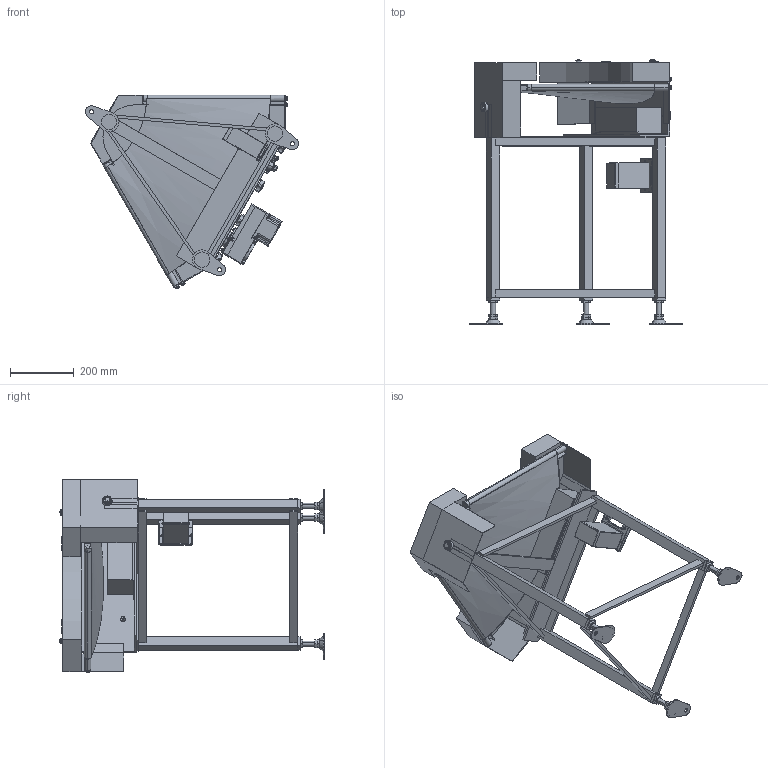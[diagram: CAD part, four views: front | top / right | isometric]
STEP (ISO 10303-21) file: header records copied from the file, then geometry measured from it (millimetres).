
FILE_DESCRIPTION (( 'STEP AP214' ), '1' );
FILE_NAME ('GBC60-HS300-DC-L.STEP', '2024-01-17T07:46:18', ( '' ), ( '' ), 'SwSTEP 2.0', 'SolidWorks 2017', '' );
FILE_SCHEMA (( 'AUTOMOTIVE_DESIGN' ));
Length unit declared in the file: millimetre
Products named in the file (1): GBC60-HS300-DC-L
Bounding box: 665.74 x 827.92 x 606.24 mm (x, y, z)
Volume: 14322887.9 mm3; surface area: 2907740.9 mm2
Topology: 75 solids, 75 shells, 1468 faces, 3391 edges, 2134 vertices
Faces by surface type: plane 784, cylinder 405, cone 151, bspline 78, torus 40, sphere 10
Entity records: 50522 total; most frequent: CARTESIAN_POINT 16450, DIRECTION 6893, ORIENTED_EDGE 6726, EDGE_CURVE 3363, AXIS2_PLACEMENT_3D 2493, VERTEX_POINT 2134, LINE 1907, VECTOR 1907
